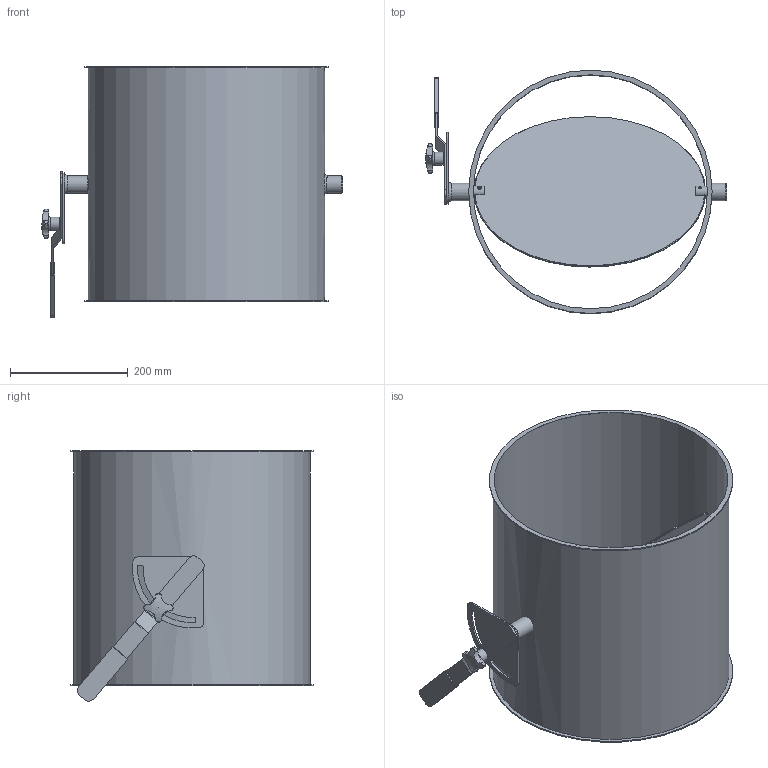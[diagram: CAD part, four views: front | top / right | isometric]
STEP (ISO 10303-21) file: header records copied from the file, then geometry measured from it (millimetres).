
FILE_DESCRIPTION((''),'2;1');
FILE_NAME('U:\Wolfgang\Marcel-3D\fertig\Kapitel 8\4021075.stp','2012-01-13T11:24:16',('iwienholt'),(''),'Autodesk Inventor 2010','Autodesk Inventor 2010','');
FILE_SCHEMA(('AUTOMOTIVE_DESIGN { 1 0 10303 214 1 1 1 1 }'));
Length unit declared in the file: millimetre
Products named in the file (7): 4021075; Bolzen D20; ganter_din_6335-ku-50-m10-k; Griff D20; Scheibe400; Umstellsegment D20; 4021075-1
Assembly tree (6 placements, depth 2):
  4021075
    Bolzen D20
    ganter_din_6335-ku-50-m10-k
    Griff D20
    Scheibe400
    Umstellsegment D20
    4021075-1
Bounding box: 512 x 414 x 426.07 mm (x, y, z)
Volume: 1562193.4 mm3; surface area: 1356700.9 mm2
Topology: 6 solids, 6 shells, 119 faces, 304 edges, 206 vertices
Faces by surface type: plane 51, cylinder 46, torus 9, bspline 7, cone 5, sphere 1
Full cylindrical faces by diameter (mm): 6 x4, 8 x1, 9 x1, 10 x2, 16 x1, 20 x6, 22 x1, 30 x3, 394 x1, 398 x1, 402 x1, 414 x2
Entity records: 4459 total; most frequent: CARTESIAN_POINT 1594, DIRECTION 566, ORIENTED_EDGE 492, EDGE_CURVE 246, AXIS2_PLACEMENT_3D 240, EDGE_LOOP 188, VERTEX_POINT 186, FACE_OUTER_BOUND 119
